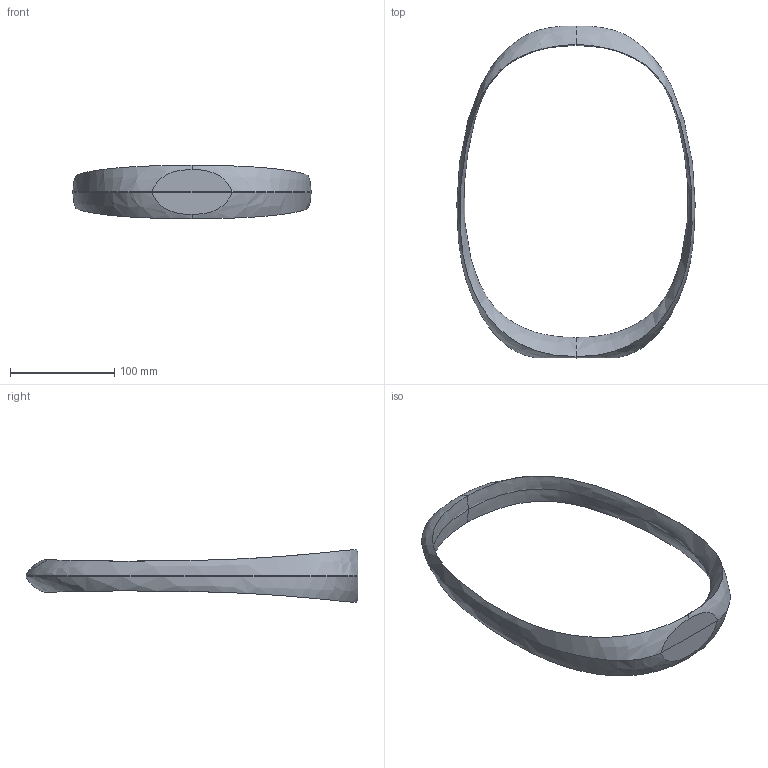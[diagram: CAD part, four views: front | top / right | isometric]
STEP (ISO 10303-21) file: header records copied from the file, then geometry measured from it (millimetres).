
FILE_DESCRIPTION (( 'STEP AP203' ), '1' );
FILE_NAME ('213_PICCOLA_T_LD_3D.STEP', '2021-04-13T12:45:25', ( '' ), ( '' ), 'SwSTEP 2.0', 'SolidWorks 2021', '' );
FILE_SCHEMA (( 'CONFIG_CONTROL_DESIGN' ));
Length unit declared in the file: millimetre
Products named in the file (1): 213_PICCOLA_T_LD_3D
Bounding box: 228.09 x 317.7 x 50.91 mm (x, y, z)
Surface area: 87900.3 mm2 (no closed solid volume)
Topology: 0 solids, 2 shells, 12 faces, 26 edges, 16 vertices
Faces by surface type: bspline 8, plane 4
Entity records: 10474 total; most frequent: CARTESIAN_POINT 10201, ORIENTED_EDGE 52, EDGE_CURVE 26, B_SPLINE_CURVE_WITH_KNOTS 24, VERTEX_POINT 16, EDGE_LOOP 14, ADVANCED_FACE 12, FACE_OUTER_BOUND 12
